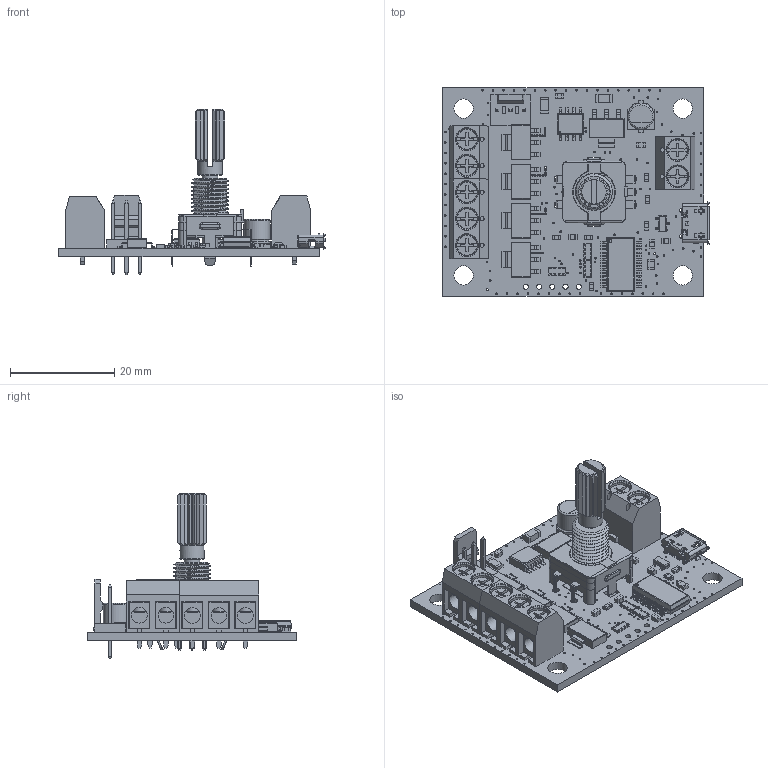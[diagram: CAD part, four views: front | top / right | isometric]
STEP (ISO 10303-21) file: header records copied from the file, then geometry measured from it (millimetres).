
FILE_DESCRIPTION(/* description */ (''),/* implementation_level */ '2;1');
FILE_NAME(/* name */ '16Bit-Manual v19.step',/* time_stamp */ '2024-02-01T12:26:59-06:00',/* author */ (''),/* organization */ (''),/* preprocessor_version */ 'ST-DEVELOPER v20',/* originating_system */ 'Autodesk Translation Framework v12.20.1.177',/* authorisation */ '');
FILE_SCHEMA (('AUTOMOTIVE_DESIGN { 1 0 10303 214 3 1 1 }'));
Products named in the file (40): 16Bit-Manual; Board; Packages; SOT23; 153CLV-0505; R1206; MOLEX_105017-1001; SOIC-8; SSOP28; C0805; C1206; FE05-1; SJ-NOPASTE; SOT223; C0603; R0603; W237-5P; 395443002; _155; _532; _752; 395443002_2; terminal block v1; 395443002 (1); _155 (1); _532 (1); _752 (1); 395443002_2 (1); _800; 395443002_3; W237-2P-EDIT; 395443002 (2); _155 (2); _532 (2); _752 (2); 395443002_2 (2); CAT16; MOLEXKK3; MOLEXKK4; SW_2-1879314-1
Assembly tree (55 placements, depth 5):
  16Bit-Manual
    Board
    Packages
      SOT23
      153CLV-0505
      R1206
      MOLEX_105017-1001
      SOIC-8
      SSOP28
      C0805
      C1206
      FE05-1
      SJ-NOPASTE  x2
      SOT223  x5
      C0603  x8
      R0603  x3
      W237-5P
        395443002
        _155
        _532
        _752
        395443002_2
        terminal block v1
          395443002 (1)
          _155 (1)
          _532 (1)
          _752 (1)
          395443002_2 (1)
          _800
          395443002_3
      W237-2P-EDIT
        395443002 (2)
        _155 (2)
        _532 (2)
        _752 (2)
        395443002_2 (2)
      CAT16  x3
      MOLEXKK3
      MOLEXKK4
      SW_2-1879314-1
Bounding box: 51.09 x 40 x 31.79 mm (x, y, z)
Volume: 7001.7 mm3; surface area: 13467.1 mm2
Topology: 59 solids, 59 shells, 3773 faces, 10039 edges, 6452 vertices
Faces by surface type: plane 2487, cylinder 967, bspline 120, sphere 76, torus 68, cone 55
Full cylindrical faces by diameter (mm): 0.3 x196, 0.527 x1, 0.8 x7, 0.85 x2, 0.9 x7, 1 x5, 1.3 x5, 1.35 x7, 2.05 x7, 2.5 x7, 3 x9, 3.048 x7, 3.7 x4, 4.42 x14, 4.7 x1, 5 x2, 7 x8
Entity records: 100194 total; most frequent: CARTESIAN_POINT 21028, ORIENTED_EDGE 15850, DIRECTION 15590, EDGE_CURVE 7925, LINE 5814, VECTOR 5814, VERTEX_POINT 5096, AXIS2_PLACEMENT_3D 4888
